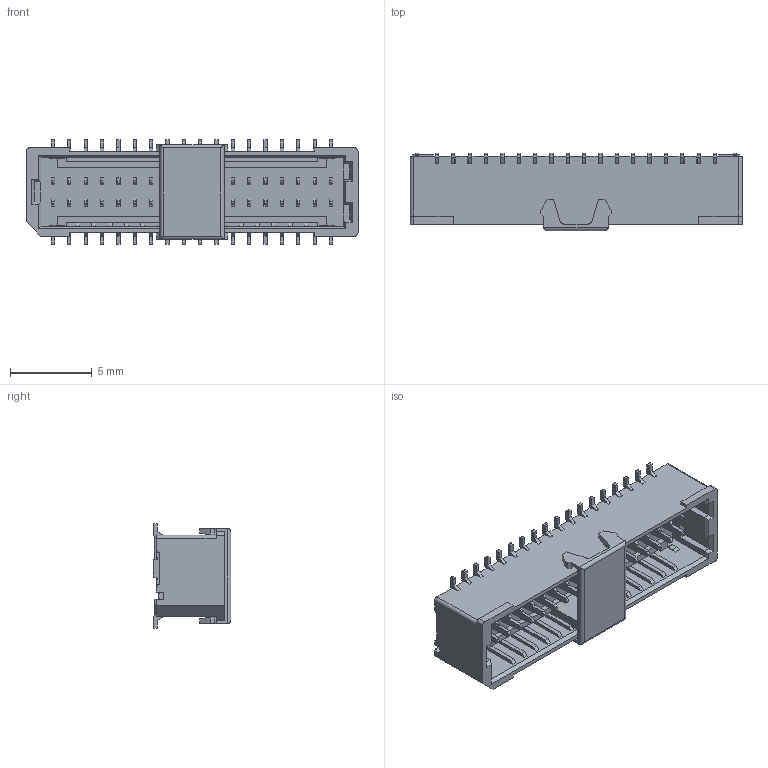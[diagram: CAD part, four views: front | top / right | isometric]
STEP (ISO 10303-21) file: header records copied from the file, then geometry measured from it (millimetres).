
FILE_DESCRIPTION(/* description */ (''),/* implementation_level */ '2;1');
FILE_NAME(/* name */ 'E:\工作文件\现出货3D文件\04建坤\SHD\HC-SHD1.0-2xNALT-04(立贴-HCTL)\HC-SHD1.0-2x18ALT-04(立贴-HCTL).stp',/* time_stamp */ '2024-03-02T15:37:39+08:00',/* author */ ('admin'),/* organization */ (''),/* preprocessor_version */ 'ST-DEVELOPER v18.1',/* originating_system */ 'Autodesk Inventor 2021',/* authorisation */ '');
FILE_SCHEMA (('AUTOMOTIVE_DESIGN { 1 0 10303 214 3 1 1 }'));
Length unit declared in the file: millimetre
Products named in the file (1): HC-SHD1.0-2x5ALT-04(立贴-HCTL)
Bounding box: 20.3 x 4.75 x 6.4 mm (x, y, z)
Volume: 207.2 mm3; surface area: 968 mm2
Topology: 3 solids, 3 shells, 1793 faces, 4870 edges, 3160 vertices
Faces by surface type: plane 1613, cylinder 180
Entity records: 56530 total; most frequent: CARTESIAN_POINT 9824, ORIENTED_EDGE 9740, DIRECTION 8970, EDGE_CURVE 4870, LINE 4358, VECTOR 4358, VERTEX_POINT 3160, AXIS2_PLACEMENT_3D 2306
